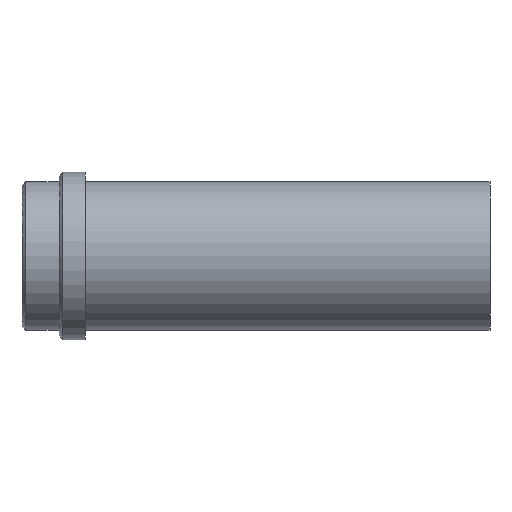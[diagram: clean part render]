
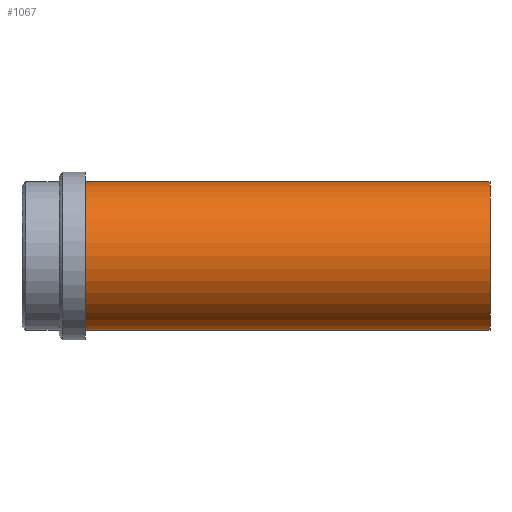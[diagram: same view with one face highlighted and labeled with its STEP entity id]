
A CAD part, front view. The second image highlights one B-rep face of the part: STEP entity #1067.
In plain terms, the highlighted cylindrical face has radius 20 mm (diameter 40 mm), a partial arc.
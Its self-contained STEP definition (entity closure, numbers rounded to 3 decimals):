
#953=CARTESIAN_POINT('Vertex',(0.,0.,-20.)) ;
#958=CARTESIAN_POINT('Axis2P3D Location',(0.,0.,0.)) ;
#962=CARTESIAN_POINT('Vertex',(0.,-20.,0.)) ;
#965=CARTESIAN_POINT('Axis2P3D Location',(0.,0.,0.)) ;
#969=CARTESIAN_POINT('Vertex',(0.,0.,20.)) ;
#995=CARTESIAN_POINT('Vertex',(109.,0.,20.)) ;
#998=CARTESIAN_POINT('Axis2P3D Location',(109.,0.,0.)) ;
#1002=CARTESIAN_POINT('Vertex',(109.,-20.,0.)) ;
#1005=CARTESIAN_POINT('Axis2P3D Location',(109.,0.,0.)) ;
#1009=CARTESIAN_POINT('Vertex',(109.,0.,-20.)) ;
#1035=CARTESIAN_POINT('Line Origine',(109.,0.,20.)) ;
#1040=CARTESIAN_POINT('Line Origine',(109.,0.,-20.)) ;
#1054=CARTESIAN_POINT('Axis2P3D Location',(109.,0.,0.)) ;
#959=DIRECTION('Axis2P3D Direction',(1.,0.,-0.)) ;
#966=DIRECTION('Axis2P3D Direction',(1.,0.,-0.)) ;
#999=DIRECTION('Axis2P3D Direction',(1.,0.,-0.)) ;
#1006=DIRECTION('Axis2P3D Direction',(1.,0.,-0.)) ;
#1036=DIRECTION('Vector Direction',(-1.,0.,0.)) ;
#1041=DIRECTION('Vector Direction',(-1.,0.,0.)) ;
#1055=DIRECTION('Axis2P3D Direction',(-1.,-0.,-0.)) ;
#1056=DIRECTION('Axis2P3D XDirection',(0.,0.,-1.)) ;
#960=AXIS2_PLACEMENT_3D('Circle Axis2P3D',#958,#959,$) ;
#967=AXIS2_PLACEMENT_3D('Circle Axis2P3D',#965,#966,$) ;
#1000=AXIS2_PLACEMENT_3D('Circle Axis2P3D',#998,#999,$) ;
#1007=AXIS2_PLACEMENT_3D('Circle Axis2P3D',#1005,#1006,$) ;
#1057=AXIS2_PLACEMENT_3D('Cylinder Axis2P3D',#1054,#1055,#1056) ;
#1060=ORIENTED_EDGE('',*,*,#1044,.T.) ;
#1061=ORIENTED_EDGE('',*,*,#1011,.F.) ;
#1062=ORIENTED_EDGE('',*,*,#1004,.F.) ;
#1063=ORIENTED_EDGE('',*,*,#1039,.T.) ;
#1064=ORIENTED_EDGE('',*,*,#971,.T.) ;
#1065=ORIENTED_EDGE('',*,*,#964,.T.) ;
#1037=VECTOR('Line Direction',#1036,1.) ;
#1042=VECTOR('Line Direction',#1041,1.) ;
#1067=ADVANCED_FACE('358-32X126',(#1066),#1058,.T.) ;
#961=CIRCLE('generated circle',#960,20.) ;
#968=CIRCLE('generated circle',#967,20.) ;
#1001=CIRCLE('generated circle',#1000,20.) ;
#1008=CIRCLE('generated circle',#1007,20.) ;
#1058=CYLINDRICAL_SURFACE('generated cylinder',#1057,20.) ;
#964=EDGE_CURVE('',#963,#954,#961,.T.) ;
#971=EDGE_CURVE('',#970,#963,#968,.T.) ;
#1004=EDGE_CURVE('',#996,#1003,#1001,.T.) ;
#1011=EDGE_CURVE('',#1003,#1010,#1008,.T.) ;
#1039=EDGE_CURVE('',#996,#970,#1038,.T.) ;
#1044=EDGE_CURVE('',#954,#1010,#1043,.F.) ;
#1059=EDGE_LOOP('',(#1060,#1061,#1062,#1063,#1064,#1065)) ;
#1066=FACE_OUTER_BOUND('',#1059,.T.) ;
#1038=LINE('Line',#1035,#1037) ;
#1043=LINE('Line',#1040,#1042) ;
#954=VERTEX_POINT('',#953) ;
#963=VERTEX_POINT('',#962) ;
#970=VERTEX_POINT('',#969) ;
#996=VERTEX_POINT('',#995) ;
#1003=VERTEX_POINT('',#1002) ;
#1010=VERTEX_POINT('',#1009) ;
